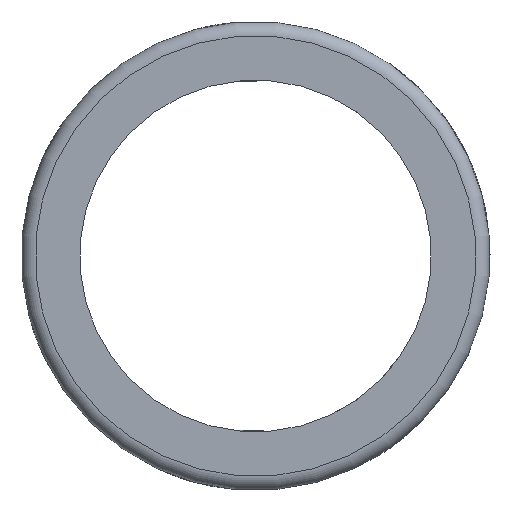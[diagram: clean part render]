
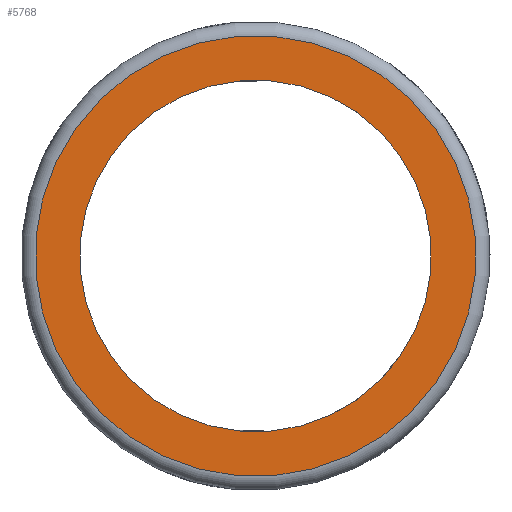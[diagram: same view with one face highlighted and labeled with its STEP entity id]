
A CAD part, left-side view. The second image highlights one B-rep face of the part: STEP entity #5768.
In plain terms, the highlighted planar face has unit normal (-1, 0, 0).
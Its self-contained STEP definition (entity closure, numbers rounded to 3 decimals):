
#127=PLANE('',#6201);
#371=CIRCLE('',#6197,15.);
#374=CIRCLE('',#6202,18.8);
#1720=ORIENTED_EDGE('',*,*,#3463,.T.);
#1721=ORIENTED_EDGE('',*,*,#3444,.T.);
#3444=EDGE_CURVE('',#4316,#4316,#371,.T.);
#3463=EDGE_CURVE('',#4335,#4335,#374,.F.);
#4316=VERTEX_POINT('',#9043);
#4335=VERTEX_POINT('',#9115);
#4915=EDGE_LOOP('',(#1720));
#4916=EDGE_LOOP('',(#1721));
#5336=FACE_BOUND('',#4915,.T.);
#5337=FACE_BOUND('',#4916,.T.);
#5768=ADVANCED_FACE('',(#5336,#5337),#127,.F.);
#6197=AXIS2_PLACEMENT_3D('',#9042,#6769,#6770);
#6201=AXIS2_PLACEMENT_3D('',#9113,#6785,#6786);
#6202=AXIS2_PLACEMENT_3D('',#9114,#6787,#6788);
#6769=DIRECTION('',(1.,0.,0.));
#6770=DIRECTION('',(0.,0.707,-0.707));
#6785=DIRECTION('',(1.,0.,0.));
#6786=DIRECTION('',(0.,0.707,-0.707));
#6787=DIRECTION('',(1.,0.,0.));
#6788=DIRECTION('',(0.,0.707,-0.707));
#9042=CARTESIAN_POINT('',(-25.,0.,0.));
#9043=CARTESIAN_POINT('',(-25.,10.607,-10.607));
#9113=CARTESIAN_POINT('',(-25.,0.,0.));
#9114=CARTESIAN_POINT('',(-25.,0.,0.));
#9115=CARTESIAN_POINT('',(-25.,13.294,-13.294));
